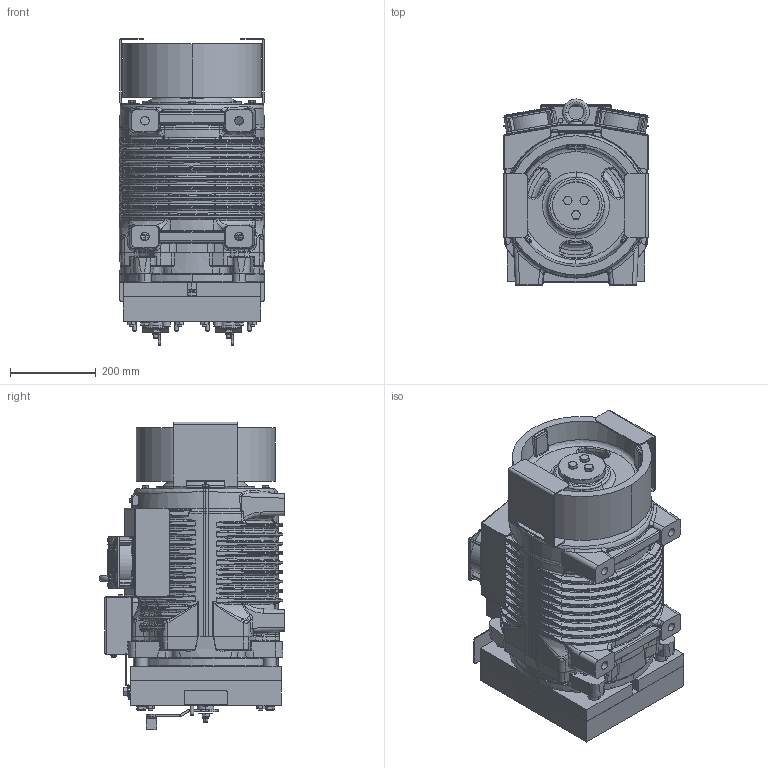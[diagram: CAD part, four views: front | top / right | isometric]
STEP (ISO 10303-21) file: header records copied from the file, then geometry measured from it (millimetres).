
FILE_DESCRIPTION((''),'2;1');
FILE_NAME('00363334_ASM','2020-05-28T',('furlanis'),('Sicor spa'),'CREO PARAMETRIC BY PTC INC, 2017170','CREO PARAMETRIC BY PTC INC, 2017170','');
FILE_SCHEMA(('CONFIG_CONTROL_DESIGN'));
Products named in the file (4): SG48; 00212683; 00213495; 00363334_ASM
Assembly tree (4 placements, depth 2):
  00363334_ASM
    SG48
    00212683  x2
    00213495
Bounding box: 340.21 x 433.5 x 717.34 mm (x, y, z)
Volume: 4634308.7 mm3; surface area: 3367238.5 mm2
Topology: 3 solids, 379 shells, 4576 faces, 14634 edges, 10108 vertices
Faces by surface type: plane 1533, cylinder 1178, bspline 932, torus 481, cone 422, sphere 26, revolution 4
Entity records: 242380 total; most frequent: CARTESIAN_POINT 128081, ORIENTED_EDGE 23007, DIRECTION 20936, EDGE_CURVE 14476, VERTEX_POINT 10028, AXIS2_PLACEMENT_3D 7272, VECTOR 6388, LINE 6388
